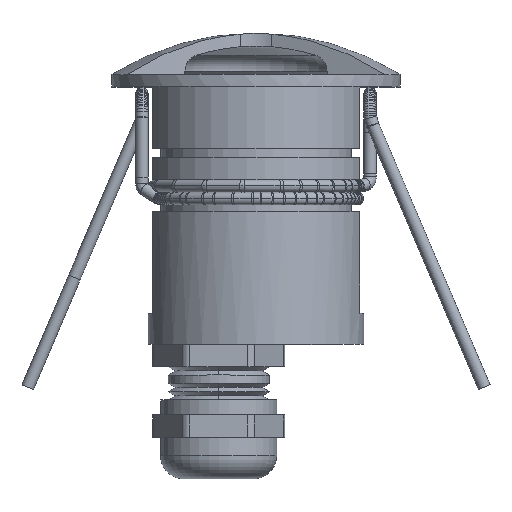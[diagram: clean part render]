
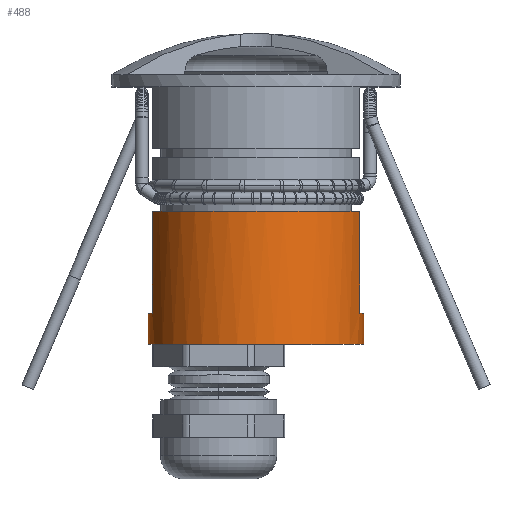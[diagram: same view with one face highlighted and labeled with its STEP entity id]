
A CAD part, top view. The second image highlights one B-rep face of the part: STEP entity #488.
In plain terms, the highlighted cylindrical face has radius 13 mm (diameter 26 mm), a partial arc.
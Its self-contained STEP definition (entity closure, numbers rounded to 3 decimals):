
#6=CARTESIAN_POINT('',(0.,0.,0.));
#7=DIRECTION('',(0.,1.,0.));
#8=DIRECTION('',(-1.,0.,0.));
#9=AXIS2_PLACEMENT_3D('',#6,#7,#8);
#44=DIRECTION('',(0.,1.,0.));
#45=VECTOR('',#44,3.75);
#46=CARTESIAN_POINT('',(13.,0.,0.));
#47=LINE('',#46,#45);
#84=CARTESIAN_POINT('',(0.,3.75,0.));
#85=DIRECTION('',(0.,-1.,0.));
#86=DIRECTION('',(-0.962,0.,0.275));
#87=AXIS2_PLACEMENT_3D('',#84,#85,#86);
#89=DIRECTION('',(0.,1.,0.));
#90=VECTOR('',#89,12.25);
#91=CARTESIAN_POINT('',(-12.5,3.75,3.571));
#92=LINE('',#91,#90);
#93=CARTESIAN_POINT('',(0.,16.,0.));
#94=DIRECTION('',(0.,1.,0.));
#95=DIRECTION('',(-0.962,0.,0.275));
#96=AXIS2_PLACEMENT_3D('',#93,#94,#95);
#98=DIRECTION('',(0.,1.,0.));
#99=VECTOR('',#98,12.25);
#100=CARTESIAN_POINT('',(12.5,3.75,3.571));
#101=LINE('',#100,#99);
#102=CARTESIAN_POINT('',(0.,3.75,0.));
#103=DIRECTION('',(0.,-1.,0.));
#104=DIRECTION('',(1.,0.,0.));
#105=AXIS2_PLACEMENT_3D('',#102,#103,#104);
#107=DIRECTION('',(0.,1.,0.));
#108=VECTOR('',#107,3.75);
#109=CARTESIAN_POINT('',(-13.,0.,0.));
#110=LINE('',#109,#108);
#303=CARTESIAN_POINT('',(13.,0.,0.));
#304=CARTESIAN_POINT('',(-13.,0.,0.));
#305=VERTEX_POINT('',#303);
#306=VERTEX_POINT('',#304);
#344=CARTESIAN_POINT('',(13.,3.75,0.));
#346=VERTEX_POINT('',#344);
#347=CARTESIAN_POINT('',(-13.,3.75,0.));
#349=VERTEX_POINT('',#347);
#363=CARTESIAN_POINT('',(-12.5,3.75,3.571));
#364=VERTEX_POINT('',#363);
#365=CARTESIAN_POINT('',(12.5,3.75,3.571));
#366=VERTEX_POINT('',#365);
#367=CARTESIAN_POINT('',(12.5,16.,3.571));
#368=VERTEX_POINT('',#367);
#373=CARTESIAN_POINT('',(-12.5,16.,3.571));
#374=VERTEX_POINT('',#373);
#468=CARTESIAN_POINT('',(0.,0.,0.));
#469=DIRECTION('',(0.,1.,0.));
#470=DIRECTION('',(1.,0.,0.));
#471=AXIS2_PLACEMENT_3D('',#468,#469,#470);
#472=CYLINDRICAL_SURFACE('',#471,13.);
#474=ORIENTED_EDGE('',*,*,#473,.F.);
#476=ORIENTED_EDGE('',*,*,#475,.T.);
#478=ORIENTED_EDGE('',*,*,#477,.T.);
#480=ORIENTED_EDGE('',*,*,#479,.F.);
#482=ORIENTED_EDGE('',*,*,#481,.F.);
#483=ORIENTED_EDGE('',*,*,#431,.F.);
#484=ORIENTED_EDGE('',*,*,#402,.F.);
#485=ORIENTED_EDGE('',*,*,#428,.T.);
#486=EDGE_LOOP('',(#474,#476,#478,#480,#482,#483,#484,#485));
#487=FACE_OUTER_BOUND('',#486,.F.);
#488=ADVANCED_FACE('',(#487),#472,.T.);
#10=CIRCLE('',#9,13.);
#88=CIRCLE('',#87,13.);
#97=CIRCLE('',#96,13.);
#106=CIRCLE('',#105,13.);
#402=EDGE_CURVE('',#306,#305,#10,.T.);
#428=EDGE_CURVE('',#306,#349,#110,.T.);
#431=EDGE_CURVE('',#305,#346,#47,.T.);
#473=EDGE_CURVE('',#364,#349,#88,.T.);
#475=EDGE_CURVE('',#364,#374,#92,.T.);
#477=EDGE_CURVE('',#374,#368,#97,.T.);
#479=EDGE_CURVE('',#366,#368,#101,.T.);
#481=EDGE_CURVE('',#346,#366,#106,.T.);
